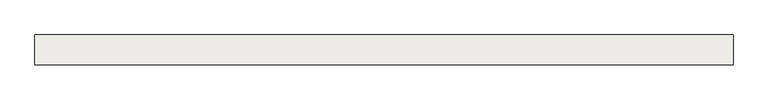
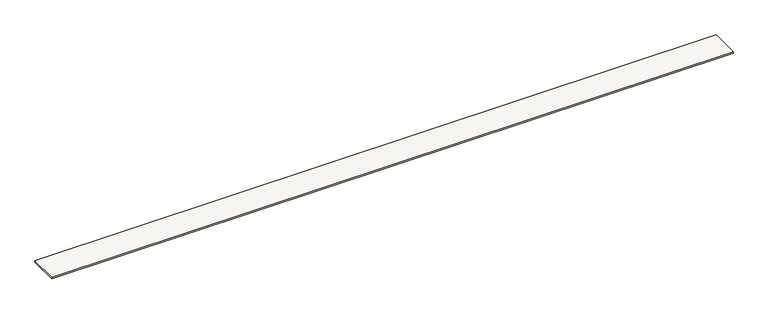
"""IFC4 building model written with IfcOpenShell, lengths in millimetres: slab geometry, Sol-02 - Tablette bois 2cm."""

from ifc_helpers import new_model, si_unit, origin, origin_with_axes, place, context, project, spatial, polyline, outline, extrude, source, transform, mapped, element, save


def slab_558b6f3b(model_context):
    return source(origin(), model_context, "Body", "SweptSolid", [
        extrude(outline(polyline([(16444.9983594, 11002.3446595), (8219.9999996, 11002.3446595), (8219.9999996, 11352.3446595), (16444.9983594, 11352.3446595), (16444.9983594, 11002.3446595)])), origin_with_axes(), (0.0, 0.0, 1.0), 20.0),
    ])


if __name__ == "__main__":
    model = new_model("IFC4")
    model_context = context("Model", 3, world=origin())
    ifc_project = project(units=[si_unit("LENGTHUNIT", "METRE", prefix="MILLI")], contexts=[model_context])
    site = spatial("IfcSite", under=ifc_project)
    building = spatial("IfcBuilding", under=site)
    placement = place(None, origin())
    slab_shape = slab_558b6f3b(model_context)
    element("IfcSlab", 1, ObjectType="Sol-02 - Tablette bois 2cm", at=placement, inside=building, context=model_context, shape_type="MappedRepresentation", body=[
        mapped(slab_shape, transform((0.0, 0.0, 0.0), x_axis=(1.0, 0.0, 0.0), y_axis=(0.0, 1.0, 0.0), z_axis=(0.0, 0.0, 1.0))),
    ])
    save(model, "model.ifc")
